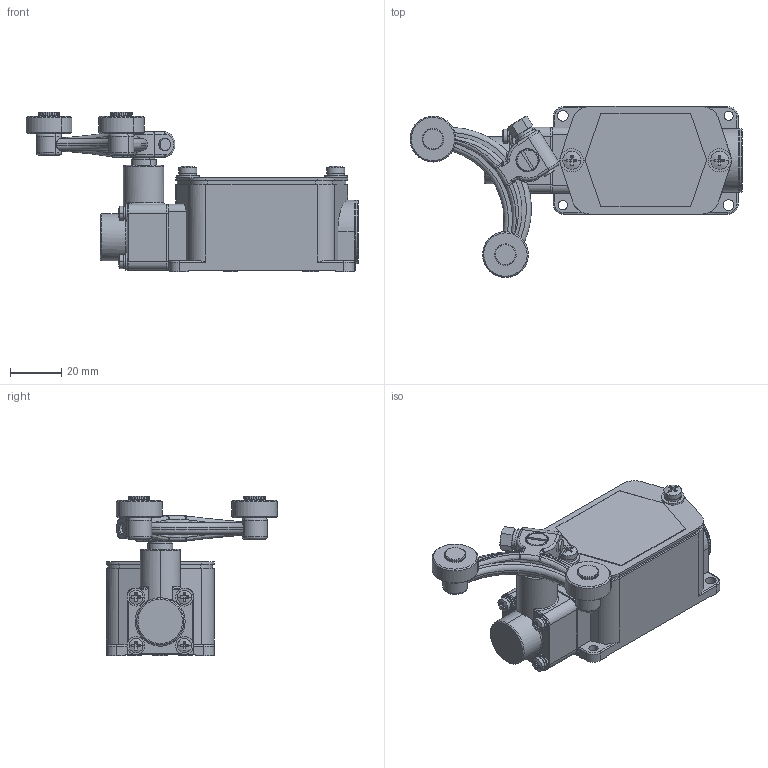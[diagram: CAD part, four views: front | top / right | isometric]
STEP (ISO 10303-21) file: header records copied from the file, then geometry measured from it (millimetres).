
FILE_DESCRIPTION((''),'2;1');
FILE_NAME('211','2022-03-01T',('qinxiong.ji'),(''),'PRO/ENGINEER BY PARAMETRIC TECHNOLOGY CORPORATION, 2015440','PRO/ENGINEER BY PARAMETRIC TECHNOLOGY CORPORATION, 2015440','');
FILE_SCHEMA(('CONFIG_CONTROL_DESIGN'));
Length unit declared in the file: millimetre
Products named in the file (1): 211
Bounding box: 130.18 x 67.1 x 62.35 mm (x, y, z)
Volume: 117461.8 mm3; surface area: 45452.4 mm2
Topology: 3 solids, 5 shells, 830 faces, 2169 edges, 1368 vertices
Faces by surface type: plane 418, cylinder 246, torus 88, cone 42, bspline 24, sphere 12
Entity records: 29399 total; most frequent: CARTESIAN_POINT 8959, ORIENTED_EDGE 4330, DIRECTION 4283, EDGE_CURVE 2165, AXIS2_PLACEMENT_3D 1650, VERTEX_POINT 1368, VECTOR 983, LINE 983
